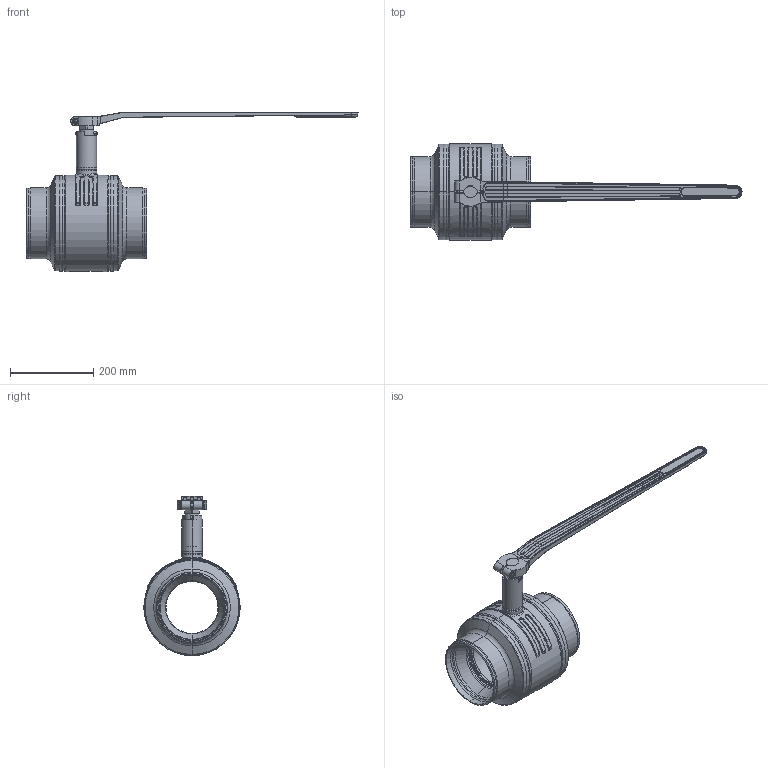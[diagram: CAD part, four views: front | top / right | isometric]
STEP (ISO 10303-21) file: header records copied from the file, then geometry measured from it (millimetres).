
FILE_DESCRIPTION((''),'2;1');
FILE_NAME('KHMO-S-R-H-150R125P04_SW0001','2022-10-18T15:47:49',('jeitlers'),('KLINGER'),'CREO PARAMETRIC BY PTC INC, 2020184','CREO PARAMETRIC BY PTC INC, 2020184','');
FILE_SCHEMA(('AUTOMOTIVE_DESIGN { 1 0 10303 214 1 1 1 1 }'));
Length unit declared in the file: millimetre
Products named in the file (1): KHMO-S-R-H-150R125P04_SW0001
Bounding box: 795.76 x 231 x 381.5 mm (x, y, z)
Volume: 3640994.9 mm3; surface area: 889120.4 mm2
Topology: 2 solids, 2 shells, 954 faces, 2284 edges, 1323 vertices
Faces by surface type: cylinder 289, bspline 206, torus 174, plane 168, cone 94, sphere 12, extrusion 10, revolution 1
Entity records: 69236 total; most frequent: CARTESIAN_POINT 47164, ORIENTED_EDGE 4518, DIRECTION 4336, EDGE_CURVE 2259, AXIS2_PLACEMENT_3D 1823, VERTEX_POINT 1323, CIRCLE 1068, EDGE_LOOP 994
